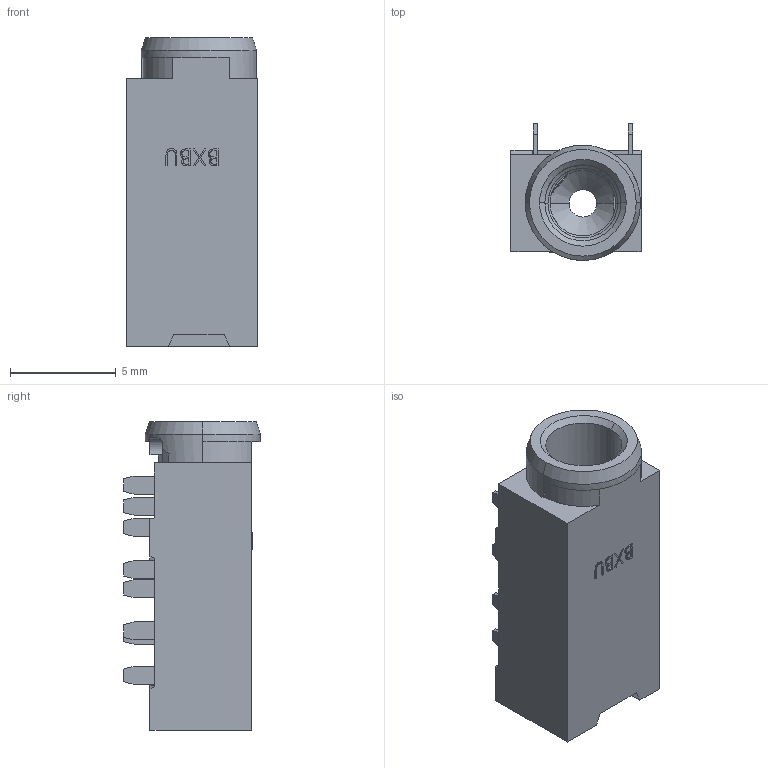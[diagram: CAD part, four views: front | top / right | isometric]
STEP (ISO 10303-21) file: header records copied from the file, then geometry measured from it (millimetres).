
FILE_DESCRIPTION (( 'STEP AP214' ), '1' );
FILE_NAME ('PJ35A128-8D.STEP', '2026-07-29T06:46:24', ( '' ), ( '' ), 'SwSTEP 2.0', 'SolidWorks 2024', '' );
FILE_SCHEMA (( 'AUTOMOTIVE_DESIGN' ));
Length unit declared in the file: millimetre
Products named in the file (1): PJ35A128-8D
Bounding box: 6.15 x 6.47 x 14.6 mm (x, y, z)
Volume: 270.7 mm3; surface area: 540.7 mm2
Topology: 1 solids, 1 shells, 226 faces, 606 edges, 399 vertices
Faces by surface type: plane 169, bspline 25, cylinder 21, cone 11
Entity records: 8402 total; most frequent: CARTESIAN_POINT 2863, ORIENTED_EDGE 1212, DIRECTION 1008, EDGE_CURVE 606, LINE 470, VECTOR 470, VERTEX_POINT 399, AXIS2_PLACEMENT_3D 269
